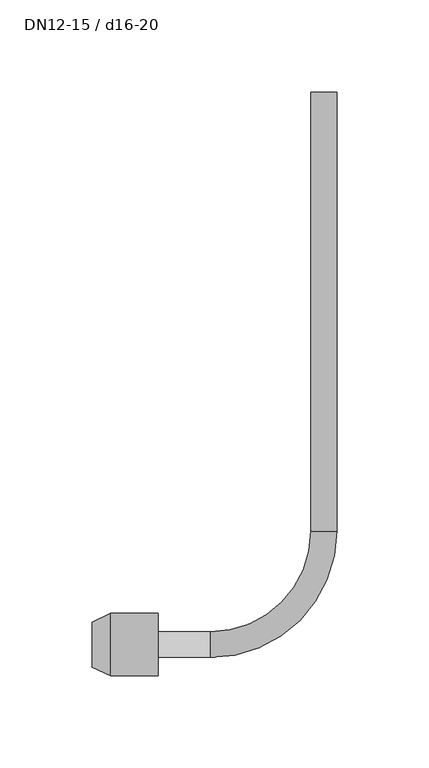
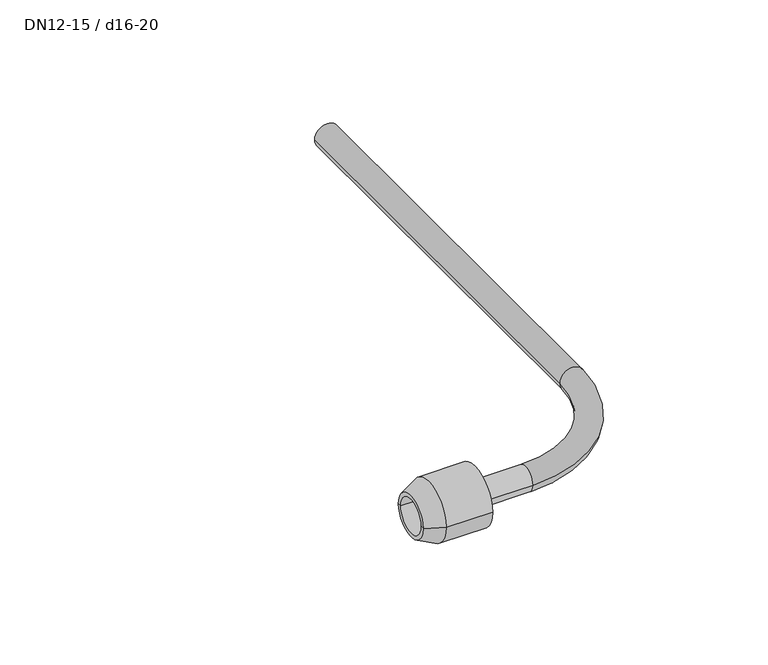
"""IFC4 building model written with IfcOpenShell, lengths in millimetres: pipe fitting geometry, NLRS_50_PIF_UN_PushFit radiatoraansluiting 90°_geb : DN12-15 / d16-20."""

from ifc_helpers import new_model, si_unit, point, frame, origin, place, context, project, spatial, polyline, circle_curve, ellipse_curve, trimmed, source, transform, mapped, element, save
from ifc_brep_helpers import plane_surface, cylinder_surface, revolved_surface, advanced_brep


def dn12_15_d16_20_1933c9d4(model_context):
    return source(origin(), model_context, "Body", "AdvancedBrep", [
        advanced_brep(
        [(-90.0, -17.0, 0.0), (-90.0, 17.0, 0.0), (-90.0, 0.0, 0.0), (-115.8135921, -17.0, 0.0), (-115.8135921, 17.0, 0.0), (-126.0, -12.25, 0.0), (-126.0, 12.25, 0.0), (-100.0, -10.0, 0.0), (-100.0, 10.0, 0.0), (-126.0, 10.0, 0.0), (-126.0, -10.0, 0.0), (-100.0, 0.0, 0.0)],
        [
            (0, 1, circle_curve(frame((-90.0, 0.0, 0.0), z_axis=(1.0, 0.0, 0.0), x_axis=(0.0, 1.0, 0.0)), 17.0)),
            (1, 2),
            (2, 0),
            (1, 0, circle_curve(frame((-90.0, 0.0, 0.0), z_axis=(1.0, 0.0, 0.0), x_axis=(0.0, 1.0, 0.0)), 17.0)),
            (3, 4, circle_curve(frame((-115.8135921, 0.0, 0.0), z_axis=(1.0, 0.0, 0.0), x_axis=(0.0, 1.0, 0.0)), 17.0)),
            (4, 1),
            (0, 3),
            (4, 3, circle_curve(frame((-115.8135921, 0.0, 0.0), z_axis=(1.0, 0.0, 0.0), x_axis=(0.0, 1.0, 0.0)), 17.0)),
            (5, 6, circle_curve(frame((-126.0, 0.0, 0.0), z_axis=(1.0, 0.0, 0.0), x_axis=(0.0, 1.0, 0.0)), 12.25)),
            (6, 4),
            (3, 5),
            (6, 5, circle_curve(frame((-126.0, 0.0, 0.0), z_axis=(1.0, 0.0, 0.0), x_axis=(0.0, 1.0, 0.0)), 12.25)),
            (7, 8, circle_curve(frame((-100.0, 0.0, 0.0), z_axis=(1.0, 0.0, 0.0), x_axis=(0.0, 1.0, 0.0)), 10.0)),
            (8, 9),
            (9, 10, circle_curve(frame((-126.0, 0.0, 0.0), z_axis=(-1.0, 0.0, 0.0), x_axis=(0.0, 1.0, 0.0)), 10.0)),
            (10, 7),
            (8, 7, circle_curve(frame((-100.0, 0.0, 0.0), z_axis=(1.0, 0.0, 0.0), x_axis=(0.0, 1.0, 0.0)), 10.0)),
            (10, 9, circle_curve(frame((-126.0, 0.0, 0.0), z_axis=(-1.0, 0.0, 0.0), x_axis=(0.0, 1.0, 0.0)), 10.0)),
            (11, 8),
            (7, 11),
            (9, 6),
            (5, 10),
        ],
        [
            plane_surface(frame((-90.0, 0.0, 0.0), z_axis=(1.0, 0.0, 0.0), x_axis=(0.0, 1.0, 0.0))),
            cylinder_surface(frame((-136.0, 0.0, 0.0), z_axis=(-1.0, 0.0, 0.0), x_axis=(0.0, 1.0, 0.0)), 17.0),
            revolved_surface(polyline([(-115.8135921, 17.0, 0.0), (-126.0, 12.25, 0.0)]), (-136.0, 0.0, 0.0), (-1.0, 0.0, 0.0)),
            revolved_surface(polyline([(-126.0, 10.0, 0.0), (-100.0, 10.0, 0.0)]), (-136.0, 0.0, 0.0), (-1.0, 0.0, 0.0)),
            plane_surface(frame((-100.0, 0.0, 0.0), z_axis=(-1.0, 0.0, 0.0), x_axis=(0.0, 1.0, 0.0))),
            plane_surface(frame((-126.0, 0.0, 0.0), z_axis=(-1.0, 0.0, 0.0), x_axis=(0.0, 1.0, 0.0))),
        ],
        [
            (0, [[1, 2, 3]]),
            (0, [[4, -3, -2]]),
            (1, [[5, 6, -1, 7]]),
            (1, [[8, -7, -4, -6]]),
            (2, [[9, 10, -5, 11]]),
            (2, [[12, -11, -8, -10]]),
            (3, [[13, 14, 15, 16]]),
            (3, [[17, -16, 18, -14]]),
            (4, [[19, -13, 20]]),
            (4, [[-20, -17, -19]]),
            (5, [[-15, 21, -9, 22]]),
            (5, [[-18, -22, -12, -21]]),
        ],
    ),
        advanced_brep(
        [(-7.0, 300.0, 0.0), (7.0, 300.0, 0.0), (-7.0, 61.5, 0.0), (7.0, 61.5, 0.0), (-61.5, -7.0, 0.0), (-61.5, 7.0, 0.0), (-90.0, 7.0, 0.0), (-90.0, -7.0, 0.0)],
        [
            (0, 1, circle_curve(frame((0.0, 300.0, 0.0), z_axis=(0.0, 1.0, 0.0), x_axis=(1.0, 0.0, 0.0)), 7.0)),
            (1, 0, circle_curve(frame((0.0, 300.0, 0.0), z_axis=(0.0, 1.0, 0.0), x_axis=(1.0, 0.0, 0.0)), 7.0)),
            (0, 2),
            (2, 3, circle_curve(frame((0.0, 61.5, 0.0), z_axis=(0.0, 1.0, 0.0), x_axis=(1.0, 0.0, 0.0)), 7.0)),
            (3, 1),
            (3, 2, circle_curve(frame((0.0, 61.5, 0.0), z_axis=(0.0, 1.0, 0.0), x_axis=(1.0, 0.0, 0.0)), 7.0)),
            (4, 3, circle_curve(frame((-61.5, 61.5, 0.0), z_axis=(0.0, 0.0, 1.0), x_axis=(1.0, 0.0, 0.0)), 68.5)),
            (2, 5, circle_curve(frame((-61.5, 61.5, 0.0), z_axis=(0.0, 0.0, -1.0), x_axis=(1.0, 0.0, 0.0)), 54.5)),
            (5, 4, circle_curve(frame((-61.5, 0.0, 0.0), z_axis=(1.0, 0.0, 0.0), x_axis=(0.0, -1.0, 0.0)), 7.0)),
            (4, 5, circle_curve(frame((-61.5, 0.0, 0.0), z_axis=(1.0, 0.0, 0.0), x_axis=(0.0, -1.0, 0.0)), 7.0)),
            (6, 7, circle_curve(frame((-90.0, 0.0, 0.0), z_axis=(-1.0, 0.0, 0.0), x_axis=(0.0, -1.0, 0.0)), 7.0)),
            (7, 6, circle_curve(frame((-90.0, 0.0, 0.0), z_axis=(-1.0, 0.0, 0.0), x_axis=(0.0, -1.0, 0.0)), 7.0)),
            (5, 6),
            (7, 4),
        ],
        [
            plane_surface(frame((0.0, 300.0, 0.0), z_axis=(0.0, 1.0, 0.0), x_axis=(0.0, 0.0, 1.0))),
            cylinder_surface(frame((0.0, 300.0, 0.0), z_axis=(0.0, 1.0, 0.0), x_axis=(1.0, 0.0, 0.0)), 7.0),
            revolved_surface(trimmed(ellipse_curve(frame((0.0, 61.5, 0.0), z_axis=(0.0, 1.0, 0.0), x_axis=(1.0, 0.0, 0.0)), 7.0, 7.0), [point((-7.0, 61.5, 0.0))], [point((7.0, 61.5, 0.0))], True, "CARTESIAN"), (-61.5, 61.5, 0.0), (0.0, 0.0, -1.0)),
            revolved_surface(trimmed(ellipse_curve(frame((0.0, 61.5, 0.0), z_axis=(0.0, 1.0, 0.0), x_axis=(1.0, 0.0, 0.0)), 7.0, 7.0), [point((7.0, 61.5, 0.0))], [point((-7.0, 61.5, 0.0))], True, "CARTESIAN"), (-61.5, 61.5, 0.0), (0.0, 0.0, -1.0)),
            plane_surface(frame((-90.0, 0.0, 0.0), z_axis=(-1.0, 0.0, 0.0), x_axis=(0.0, 0.0, 1.0))),
            cylinder_surface(frame((-61.5, 0.0, 0.0), z_axis=(1.0, 0.0, 0.0), x_axis=(0.0, -1.0, 0.0)), 7.0),
        ],
        [
            (0, [[1, 2]]),
            (1, [[-1, 3, 4, 5]]),
            (1, [[-2, -5, 6, -3]]),
            (2, [[7, -4, 8, 9]]),
            (3, [[-8, -6, -7, 10]]),
            (4, [[11, 12]]),
            (5, [[-9, 13, -12, 14]]),
            (5, [[-10, -14, -11, -13]]),
        ],
    ),
    ])


if __name__ == "__main__":
    model = new_model("IFC4")
    model_context = context("Model", 3, world=origin())
    ifc_project = project(units=[si_unit("LENGTHUNIT", "METRE", prefix="MILLI")], contexts=[model_context])
    site = spatial("IfcSite", under=ifc_project)
    building = spatial("IfcBuilding", under=site)
    placement = place(None, origin())
    dn12_15_d16_20_shape = dn12_15_d16_20_1933c9d4(model_context)
    element("IfcPipeFitting", 1, ObjectType="NLRS_50_PIF_UN_PushFit radiatoraansluiting 90°_geb : DN12-15 / d16-20", at=placement, inside=building, context=model_context, shape_type="MappedRepresentation", body=[
        mapped(dn12_15_d16_20_shape, transform((0.0, 0.0, 0.0), x_axis=(1.0, 0.0, 0.0), y_axis=(0.0, 1.0, 0.0), z_axis=(0.0, 0.0, 1.0))),
    ])
    save(model, "model.ifc")
